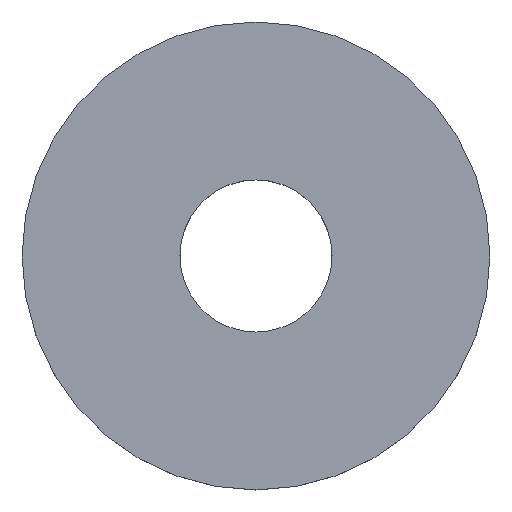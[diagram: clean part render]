
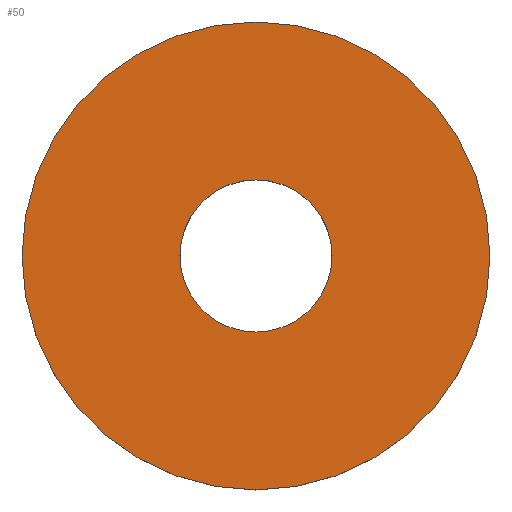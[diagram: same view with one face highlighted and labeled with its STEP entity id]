
A CAD part, top view. The second image highlights one B-rep face of the part: STEP entity #50.
In plain terms, the highlighted planar face has unit normal (0, 0, 1).
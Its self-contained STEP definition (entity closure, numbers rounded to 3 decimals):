
#2 = CARTESIAN_POINT ( 'NONE',  ( -3.25, 0., 0.75 ) ) ;
#8 = EDGE_CURVE ( 'NONE', #91, #26, #149, .T. ) ;
#18 = EDGE_CURVE ( 'NONE', #26, #91, #95, .T. ) ;
#19 = CARTESIAN_POINT ( 'NONE',  ( 0., 0., 0.75 ) ) ;
#20 = CARTESIAN_POINT ( 'NONE',  ( 10., 0., 0.75 ) ) ;
#24 = PLANE ( 'NONE',  #57 ) ;
#26 = VERTEX_POINT ( 'NONE', #20 ) ;
#34 = AXIS2_PLACEMENT_3D ( 'NONE', #160, #178, #195 ) ;
#35 = VERTEX_POINT ( 'NONE', #62 ) ;
#39 = AXIS2_PLACEMENT_3D ( 'NONE', #19, #215, #81 ) ;
#45 = ORIENTED_EDGE ( 'NONE', *, *, #173, .F. ) ;
#48 = ORIENTED_EDGE ( 'NONE', *, *, #8, .T. ) ;
#50 = ADVANCED_FACE ( 'NONE', ( #161, #119 ), #24, .T. ) ;
#57 = AXIS2_PLACEMENT_3D ( 'NONE', #64, #203, #165 ) ;
#62 = CARTESIAN_POINT ( 'NONE',  ( 3.25, 0., 0.75 ) ) ;
#63 = CIRCLE ( 'NONE', #155, 3.25 ) ;
#64 = CARTESIAN_POINT ( 'NONE',  ( 0., 0., 0.75 ) ) ;
#74 = EDGE_LOOP ( 'NONE', ( #48, #123 ) ) ;
#81 = DIRECTION ( 'NONE',  ( 1., 0., 0. ) ) ;
#91 = VERTEX_POINT ( 'NONE', #108 ) ;
#95 = CIRCLE ( 'NONE', #39, 10. ) ;
#104 = DIRECTION ( 'NONE',  ( 0., 0., 1. ) ) ;
#107 = DIRECTION ( 'NONE',  ( 1., 0., 0. ) ) ;
#108 = CARTESIAN_POINT ( 'NONE',  ( -10., 0., 0.75 ) ) ;
#111 = DIRECTION ( 'NONE',  ( 1., 0., 0. ) ) ;
#119 = FACE_BOUND ( 'NONE', #167, .T. ) ;
#123 = ORIENTED_EDGE ( 'NONE', *, *, #18, .T. ) ;
#135 = CIRCLE ( 'NONE', #199, 3.25 ) ;
#149 = CIRCLE ( 'NONE', #34, 10. ) ;
#152 = DIRECTION ( 'NONE',  ( 0., 0., 1. ) ) ;
#155 = AXIS2_PLACEMENT_3D ( 'NONE', #184, #104, #107 ) ;
#160 = CARTESIAN_POINT ( 'NONE',  ( 0., 0., 0.75 ) ) ;
#161 = FACE_OUTER_BOUND ( 'NONE', #74, .T. ) ;
#165 = DIRECTION ( 'NONE',  ( 1., 0., 0. ) ) ;
#167 = EDGE_LOOP ( 'NONE', ( #45, #241 ) ) ;
#173 = EDGE_CURVE ( 'NONE', #176, #35, #63, .T. ) ;
#176 = VERTEX_POINT ( 'NONE', #2 ) ;
#178 = DIRECTION ( 'NONE',  ( 0., 0., 1. ) ) ;
#184 = CARTESIAN_POINT ( 'NONE',  ( 0., 0., 0.75 ) ) ;
#195 = DIRECTION ( 'NONE',  ( 1., 0., 0. ) ) ;
#199 = AXIS2_PLACEMENT_3D ( 'NONE', #242, #152, #111 ) ;
#203 = DIRECTION ( 'NONE',  ( 0., 0., 1. ) ) ;
#215 = DIRECTION ( 'NONE',  ( 0., 0., 1. ) ) ;
#235 = EDGE_CURVE ( 'NONE', #35, #176, #135, .T. ) ;
#241 = ORIENTED_EDGE ( 'NONE', *, *, #235, .F. ) ;
#242 = CARTESIAN_POINT ( 'NONE',  ( 0., 0., 0.75 ) ) ;
